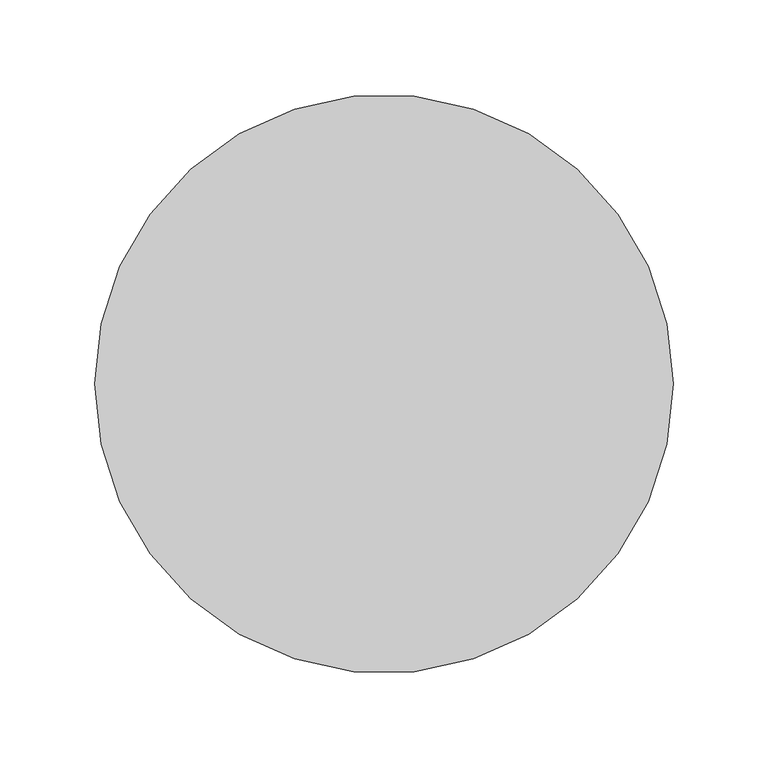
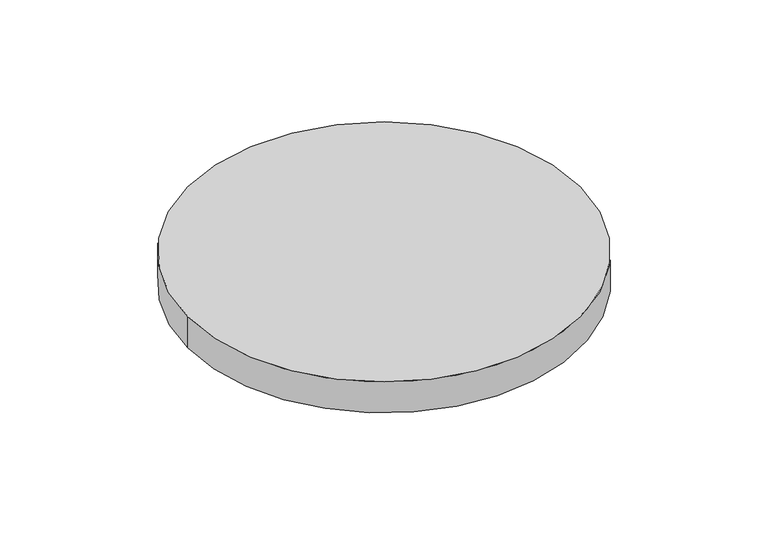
"""IFC4 building model written with IfcOpenShell, lengths in millimetres: light fixture geometry, LCMPD12R_SURFACE MOUNT BASIC : LCMPD12RW-T30."""

from ifc_helpers import new_model, si_unit, point, frame, frame_2d, origin, place, context, project, spatial, polyline, circle_curve, trimmed, segment, composite_curve, outline, extrude, source, transform, mapped, element, save
from ifc_brep_helpers import plane_surface, cylinder_surface, revolved_surface, advanced_brep


def light_fixture_42e2b3af(model_context):
    return source(origin(), model_context, "Body", "SolidModel", [
        advanced_brep(
        [(-152.4, -33.7992882, 0.0), (152.4, -33.7992882, 0.0), (-152.4, -33.7992882, -25.4), (152.4, -33.7992882, -25.4), (-139.7, -33.7992882, -25.4), (139.7, -33.7992882, -25.4), (139.7, -33.7992882, -21.9684516), (-139.7, -33.7992882, -21.9684516)],
        [
            (0, 1, circle_curve(frame((0.0, -33.7992882, 0.0), z_axis=(0.0, 0.0, 1.0), x_axis=(1.0, 0.0, 0.0)), 152.4)),
            (1, 0, circle_curve(frame((0.0, -33.7992882, 0.0), z_axis=(0.0, 0.0, 1.0), x_axis=(1.0, 0.0, 0.0)), 152.4)),
            (2, 3, circle_curve(frame((0.0, -33.7992882, -25.4), z_axis=(0.0, 0.0, -1.0), x_axis=(1.0, 0.0, 0.0)), 152.4)),
            (3, 2, circle_curve(frame((0.0, -33.7992882, -25.4), z_axis=(0.0, 0.0, -1.0), x_axis=(1.0, 0.0, 0.0)), 152.4)),
            (4, 5, circle_curve(frame((0.0, -33.7992882, -25.4), z_axis=(0.0, 0.0, 1.0), x_axis=(1.0, 0.0, 0.0)), 139.7)),
            (5, 4, circle_curve(frame((0.0, -33.7992882, -25.4), z_axis=(0.0, 0.0, 1.0), x_axis=(1.0, 0.0, 0.0)), 139.7)),
            (0, 2),
            (3, 1),
            (5, 6),
            (6, 7, circle_curve(frame((0.0, -33.7992882, -21.9684516), z_axis=(0.0, 0.0, 1.0), x_axis=(1.0, 0.0, 0.0)), 139.7)),
            (7, 4),
            (7, 6, circle_curve(frame((0.0, -33.7992882, -21.9684516), z_axis=(0.0, 0.0, 1.0), x_axis=(1.0, 0.0, 0.0)), 139.7)),
        ],
        [
            plane_surface(frame((152.4, -33.7992882, 0.0), z_axis=(0.0, 0.0, 1.0), x_axis=(0.0, 1.0, 0.0))),
            plane_surface(frame((152.4, -33.7992882, -25.4), z_axis=(0.0, 0.0, -1.0), x_axis=(0.0, -1.0, 0.0))),
            cylinder_surface(frame((0.0, -33.7992882, -25.4), z_axis=(0.0, 0.0, 1.0), x_axis=(1.0, 0.0, 0.0)), 152.4),
            revolved_surface(polyline([(139.7, -33.7992882, -25.4), (139.7, -33.7992882, -21.9684516)]), (0.0, -33.7992882, 0.0), (0.0, 0.0, -1.0)),
            plane_surface(frame((139.7, -33.7992882, -21.9684516), z_axis=(0.0, 0.0, -1.0), x_axis=(0.0, -1.0, 0.0))),
        ],
        [
            (0, [[1, 2]]),
            (1, [[3, 4], [5, 6]]),
            (2, [[-1, 7, -4, 8]]),
            (2, [[-2, -8, -3, -7]]),
            (3, [[-6, 9, 10, 11]]),
            (3, [[-5, -11, 12, -9]]),
            (4, [[-10, -12]]),
        ],
    ),
        extrude(outline(composite_curve([segment(trimmed(circle_curve(frame_2d((0.0, -33.7992882)), 139.7), [point((-139.7, -33.7992882))], [point((139.7, -33.7992882))], False, "CARTESIAN"), True, "CONTINUOUS"), segment(trimmed(circle_curve(frame_2d((0.0, -33.7992882)), 139.7), [point((139.7, -33.7992882))], [point((-139.7, -33.7992882))], False, "CARTESIAN"), True, "CONTINUOUS")], self_intersect=False)), frame((0.0, 0.0, -23.6214963), z_axis=(0.0, 0.0, 1.0), x_axis=(1.0, 0.0, 0.0)), (0.0, 0.0, 1.0), 1.6530446),
    ])


if __name__ == "__main__":
    model = new_model("IFC4")
    model_context = context("Model", 3, world=origin())
    ifc_project = project(units=[si_unit("LENGTHUNIT", "METRE", prefix="MILLI")], contexts=[model_context])
    site = spatial("IfcSite", under=ifc_project)
    building = spatial("IfcBuilding", under=site)
    placement = place(None, origin())
    light_fixture_shape = light_fixture_42e2b3af(model_context)
    element("IfcLightFixture", 1, ObjectType="LCMPD12R_SURFACE MOUNT BASIC : LCMPD12RW-T30", at=placement, inside=building, context=model_context, shape_type="MappedRepresentation", body=[
        mapped(light_fixture_shape, transform((0.0, 0.0, 0.0), x_axis=(1.0, 0.0, 0.0), y_axis=(0.0, 1.0, 0.0), z_axis=(0.0, 0.0, 1.0))),
    ])
    save(model, "model.ifc")
